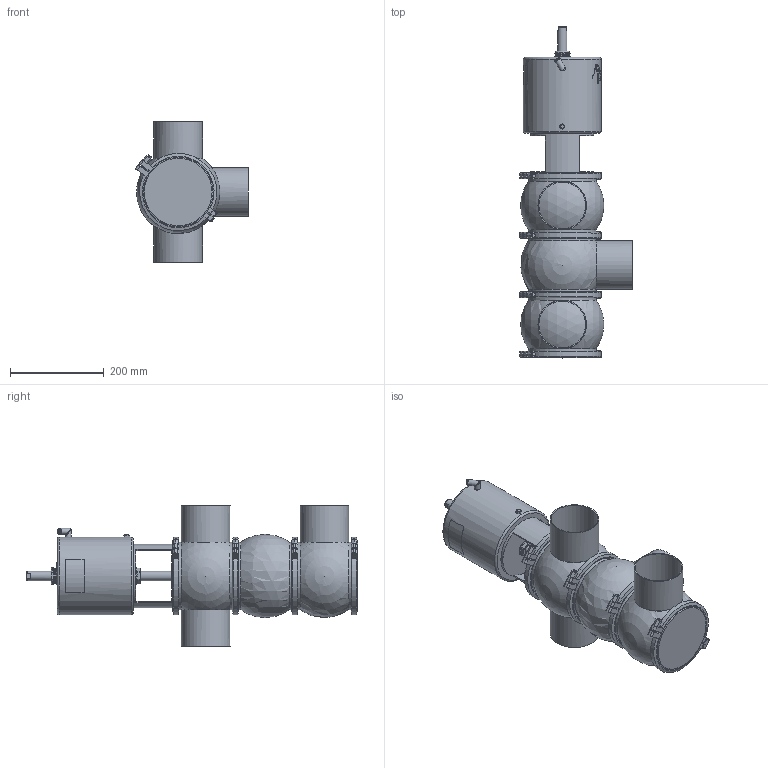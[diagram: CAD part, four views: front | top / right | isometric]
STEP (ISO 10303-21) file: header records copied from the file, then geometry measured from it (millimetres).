
FILE_DESCRIPTION (( 'STEP AP214' ), '1' );
FILE_NAME ('INNOVA L P W DIN 100 T4 AS NC_10.241.16.0016.STEP', '2024-08-07T07:41:06', ( '' ), ( '' ), 'SwSTEP 2.0', 'SolidWorks 2023', '' );
FILE_SCHEMA (( 'AUTOMOTIVE_DESIGN' ));
Length unit declared in the file: millimetre
Products named in the file (7): 10.241.15.0001_DIN 100; 10.240.15.0007_DIN 100; 10.240.15.0001_DN 100; 10.240.15.0006_DIN 100; 10.240.15.0014_T4 AS P180; INNOVA L P W DIN 100 T4 AS NC_10.241.16.0016; 10.240.15.0010_DN 100
Assembly tree (10 placements, depth 2):
  INNOVA L P W DIN 100 T4 AS NC_10.241.16.0016
    10.240.15.0007_DIN 100
    10.240.15.0006_DIN 100  x2
    10.240.15.0010_DN 100
    10.240.15.0014_T4 AS P180
    10.240.15.0001_DN 100  x4
    10.241.15.0001_DIN 100
Bounding box: 241.26 x 709.5 x 300 mm (x, y, z)
Volume: 12409511.7 mm3; surface area: 916787.1 mm2
Topology: 11 solids, 11 shells, 537 faces, 1433 edges, 933 vertices
Faces by surface type: plane 261, cylinder 138, bspline 80, cone 46, sphere 8, torus 4
Full cylindrical faces by diameter (mm): 6.15 x1, 8 x9, 8.5 x1, 10.5 x1, 12.5 x3, 16 x1, 20 x2, 31 x1, 34.5 x2, 36.5 x1, 100 x4, 104 x4, 135 x1, 144.5 x7, 156.5 x8, 166 x1
Entity records: 20850 total; most frequent: CARTESIAN_POINT 11360, ORIENTED_EDGE 1646, DIRECTION 1287, EDGE_CURVE 823, VERTEX_POINT 568, AXIS2_PLACEMENT_3D 499, EDGE_LOOP 427, FACE_OUTER_BOUND 385
